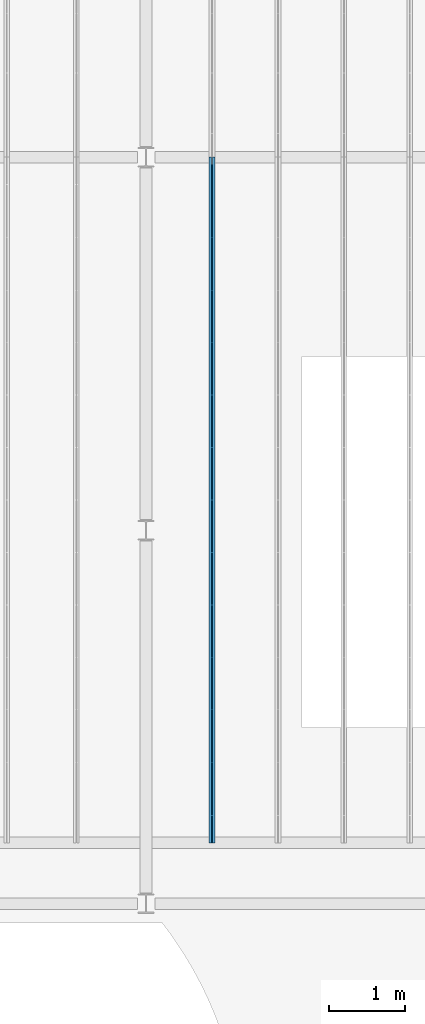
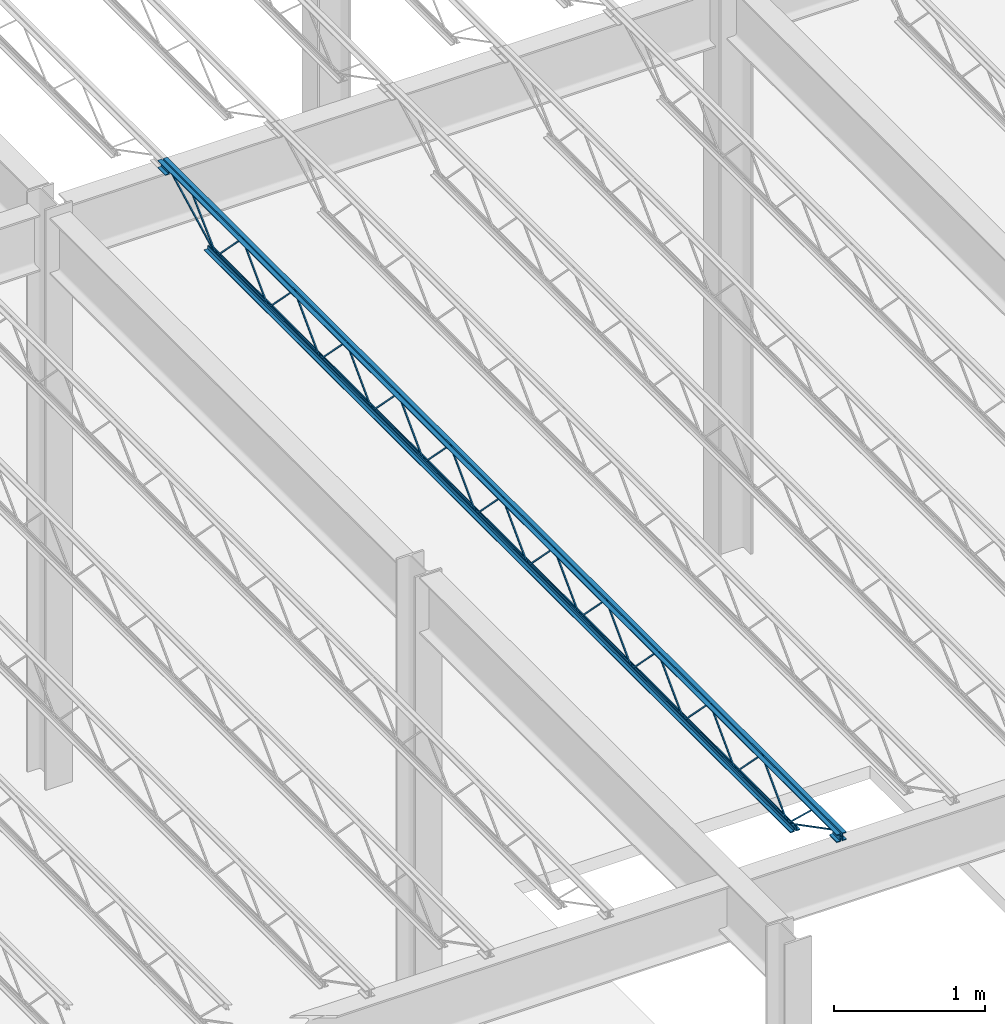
# One storey, part 52 of 119: 1 beam.
"""IFC2X3 building model written with IfcOpenShell, lengths in metres."""

import ifcopenshell
import ifcopenshell.guid

model = None  # the IFC model being written
_history = None  # IfcOwnerHistory: only IFC2X3 demands one
_inside = {}  # id of a spatial element -> (the spatial element, [elements in it])
_under = {}  # id of a project, library or spatial element -> (it, [spatial elements below it])
_declared = {}  # id of a project -> (the project, [libraries it declares])
_typed = {}  # id of a type object -> (the type object, [elements of that type])
_made_of = {}  # id of a material, layer set ... -> (it, [elements and type objects made of it])


def new_model(schema):
    """Start an empty IFC model of exactly this schema.

    Asked for "IFC4X3", IfcOpenShell would pick the latest addendum, in which some entities
    have other attributes; the version numbers below select the first issue.
    IFC2X3 requires an IfcOwnerHistory on every rooted entity: one is made here for all.
    """
    global model, _history
    if schema == "IFC4X3":
        model = ifcopenshell.file(schema_version=(4, 3, 0, 0))
    else:
        model = ifcopenshell.file(schema=schema)
    _inside.clear()
    _under.clear()
    _declared.clear()
    _typed.clear()
    _made_of.clear()
    _history = None
    if model.schema == "IFC2X3":
        org = make("IfcOrganization", Name="unknown")
        user = make(
            "IfcPersonAndOrganization",
            ThePerson=make("IfcPerson", FamilyName="unknown"),
            TheOrganization=org,
        )
        app = make(
            "IfcApplication",
            ApplicationDeveloper=org,
            Version="unknown",
            ApplicationFullName="unknown",
            ApplicationIdentifier="unknown",
        )
        _history = make(
            "IfcOwnerHistory",
            OwningUser=user,
            OwningApplication=app,
            ChangeAction="ADDED",
            CreationDate=0,
        )
    return model


def make(cls, **values):
    """One entity of the class cls with the attributes given. An attribute that is None is left unset."""
    return model.create_entity(
        cls, **{name: value for name, value in values.items() if value is not None}
    )


def entity(cls, *values):
    """Any entity or typed value of the class cls, its attributes in the order of the schema. None: left unset."""
    e = model.create_entity(cls)
    for i, value in enumerate(values):
        if value is not None:
            e[i] = value
    return e


def rooted(cls, **values):
    """An entity with a GlobalId (a new one), such as an element, a storey or a relation."""
    return make(cls, GlobalId=ifcopenshell.guid.new(), OwnerHistory=_history, **values)


def si_unit(unit_type, name, prefix=None):
    """IfcSIUnit, for example si_unit("LENGTHUNIT", "METRE", prefix="MILLI")."""
    return make("IfcSIUnit", UnitType=unit_type, Prefix=prefix, Name=name)


def converted_unit(unit_type, name, factor, base, dimensions=None, offset=None):
    """IfcConversionBasedUnit, such as the inch: factor (a typed value) times the base unit."""
    return make(
        "IfcConversionBasedUnit"
        if offset is None
        else "IfcConversionBasedUnitWithOffset",
        ConversionOffset=offset,
        Dimensions=None
        if dimensions is None
        else entity("IfcDimensionalExponents", *dimensions),
        UnitType=unit_type,
        Name=name,
        ConversionFactor=make(
            "IfcMeasureWithUnit", ValueComponent=factor, UnitComponent=base
        ),
    )


def assignment(units):
    """IfcUnitAssignment: the units of a project."""
    return None if units is None else make("IfcUnitAssignment", Units=units)


def point(xyz):
    """IfcCartesianPoint."""
    return None if xyz is None else make("IfcCartesianPoint", Coordinates=xyz)


def direction(xyz):
    """IfcDirection."""
    return None if xyz is None else make("IfcDirection", DirectionRatios=xyz)


def frame(location, z_axis=None, x_axis=None):
    """IfcAxis2Placement3D, a coordinate frame: its origin and axes. An axis left out is left unset."""
    return make(
        "IfcAxis2Placement3D",
        Location=point(location),
        Axis=direction(z_axis),
        RefDirection=direction(x_axis),
    )


def origin():
    """The frame at (0, 0, 0) with its axes left unset."""
    return frame((0.0, 0.0, 0.0))


def place(relative_to, where):
    """IfcLocalPlacement: puts the frame where relative to a parent placement (None: the world)."""
    return make(
        "IfcLocalPlacement", PlacementRelTo=relative_to, RelativePlacement=where
    )


def context(
    kind, dimensions, precision=None, world=None, true_north=None, identifier=None
):
    """IfcGeometricRepresentationContext, for example the 3D "Model" context."""
    return make(
        "IfcGeometricRepresentationContext",
        ContextIdentifier=identifier,
        ContextType=kind,
        CoordinateSpaceDimension=dimensions,
        Precision=precision,
        WorldCoordinateSystem=world,
        TrueNorth=true_north,
    )


def project(units=None, contexts=None):
    """IfcProject with its units and contexts."""
    return rooted(
        "IfcProject",
        Name="project",
        RepresentationContexts=contexts,
        UnitsInContext=assignment(units),
    )


def spatial(cls, under=None, at=None, **own):
    """A site, building, storey or space (cls), placed at a placement, below another one or the project."""
    s = rooted(cls, ObjectPlacement=at, **own)
    if under is not None:
        _under.setdefault(under.id(), (under, []))[1].append(s)
    return s


def faces_of(points, faces, orient=None, outer=None):
    """IfcFace entities. A face is a list of loops; a loop is a list of indices into points, from 0.

    orient and outer hold one flag for each loop. By default every Orientation is true, the
    first loop of a face is its IfcFaceOuterBound and the others are IfcFaceBound.
    """
    made = []
    for i, loops in enumerate(faces):
        bounds = []
        for j, loop in enumerate(loops):
            is_outer = j == 0 if outer is None else outer[i][j]
            bounds.append(
                make(
                    "IfcFaceOuterBound" if is_outer else "IfcFaceBound",
                    Bound=make("IfcPolyLoop", Polygon=[points[k] for k in loop]),
                    Orientation=True if orient is None else orient[i][j],
                )
            )
        made.append(make("IfcFace", Bounds=bounds))
    return made


def face_set(faces, orient=None, outer=None):
    """The faces of one IfcConnectedFaceSet. surface_model builds it on its shared points."""
    return ("IfcConnectedFaceSet", faces, orient, outer)


def surface_model(cls, points, shells):
    """IfcFaceBasedSurfaceModel or IfcShellBasedSurfaceModel (cls): surfaces that need not close."""
    shared = [point(p) for p in points]
    made = [make(c, CfsFaces=faces_of(shared, fs, o, b)) for c, fs, o, b in shells]
    if cls == "IfcFaceBasedSurfaceModel":
        return make(cls, FbsmFaces=made)
    return make(cls, SbsmBoundary=made)


def shape(context_of_items, identifier, shape_type, items):
    """IfcShapeRepresentation: the items that make up one representation, for example the "Body"."""
    return make(
        "IfcShapeRepresentation",
        ContextOfItems=context_of_items,
        RepresentationIdentifier=identifier,
        RepresentationType=shape_type,
        Items=items,
    )


def made_of(thing, what):
    """Note that an element or type object is made of a material, layer set ...; save() writes the relation."""
    if what is not None:
        _made_of.setdefault(what.id(), (what, []))[1].append(thing)
    return thing


def element(
    cls,
    number,
    at=None,
    inside=None,
    cuts=None,
    type_object=None,
    material=None,
    context=None,
    identifier="Body",
    shape_type=None,
    held_by="IfcProductDefinitionShape",
    body=None,
    shapes=None,
    **own,
):
    """One element of the class cls, such as IfcWall. Its Tag is "e" and its number.

    at: its placement. inside: the storey or other place that contains it. cuts: it is an
    opening in that element (IfcRelVoidsElement). A single representation is given by context,
    identifier, shape_type and body (its items); several are given by shapes. held_by: the class
    of the entity that holds the representations. save() writes the other relations.
    """
    e = rooted(cls, Tag="e%d" % number, ObjectPlacement=at, **own)
    if body is not None:
        shapes = [shape(context, identifier, shape_type, body)]
    if shapes is not None:
        e.Representation = make(held_by, Representations=shapes)
    if inside is not None:
        _inside.setdefault(inside.id(), (inside, []))[1].append(e)
    if cuts is not None:
        rooted(
            "IfcRelVoidsElement", RelatingBuildingElement=cuts, RelatedOpeningElement=e
        )
    if type_object is not None:
        _typed.setdefault(type_object.id(), (type_object, []))[1].append(e)
    return made_of(e, material)


def aggregate(whole, parts):
    """IfcRelAggregates: a whole, such as a stair, and the parts it consists of."""
    return rooted("IfcRelAggregates", RelatingObject=whole, RelatedObjects=parts)


def save(model, path):
    """Write the relations noted so far, then the file.

    IfcRelAggregates (storeys below a building ...), IfcRelContainedInSpatialStructure (elements
    in a storey), IfcRelDefinesByType, IfcRelAssociatesMaterial and IfcRelDeclares: one each for
    every whole, place, type object, material and project.
    """
    for whole, parts in _under.values():
        aggregate(whole, parts)
    for where, things in _inside.values():
        rooted(
            "IfcRelContainedInSpatialStructure",
            RelatedElements=things,
            RelatingStructure=where,
        )
    for kind, things in _typed.values():
        rooted("IfcRelDefinesByType", RelatedObjects=things, RelatingType=kind)
    for what, things in _made_of.values():
        rooted("IfcRelAssociatesMaterial", RelatedObjects=things, RelatingMaterial=what)
    for by, libraries in _declared.values():
        rooted("IfcRelDeclares", RelatingContext=by, RelatedDefinitions=libraries)
    model.write(path)


model = new_model("IFC2X3")

# Units and contexts
model_context = context("Model", 3, precision=1e-09, world=origin())
plan_context = context("Plan", 3, precision=1e-09, world=origin())
ifc_project = project(units=[si_unit("LENGTHUNIT", "METRE"), si_unit("AREAUNIT", "SQUARE_METRE"), si_unit("VOLUMEUNIT", "CUBIC_METRE"), converted_unit("PLANEANGLEUNIT", "DEGREE", entity("IfcRatioMeasure", 0.01745329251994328), si_unit("PLANEANGLEUNIT", "RADIAN"), dimensions=[0, 0, 0, 0, 0, 0, 0]), si_unit("TIMEUNIT", "SECOND")], contexts=[model_context, plan_context])

# Site, building, storey
site_placement = place(None, origin())
site = spatial("IfcSite", under=ifc_project, at=site_placement, Name="Default", CompositionType="ELEMENT")
building_placement = place(site_placement, origin())
building = spatial("IfcBuilding", under=site, at=building_placement, CompositionType="ELEMENT")
storey_placement = place(building_placement, frame((0.0, 0.0, 4.570000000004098)))
storey = spatial("IfcBuildingStorey", under=building, at=storey_placement, Name="Second Floor", CompositionType="ELEMENT", Elevation=4.570000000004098)

# Beam
beam_placement = place(storey_placement, frame((-19.23341249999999, 35.80499999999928, 4.323999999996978)))
element("IfcBeam", 1, at=beam_placement, inside=storey, Name="M_K-Series Bar Joist-Rod Web:14K1:14K1", ObjectType="M_K-Series Bar Joist-Rod Web:14K1", context=model_context, shape_type="SurfaceModel", body=[
    surface_model("IfcFaceBasedSurfaceModel", [(0.04150000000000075, 6.890090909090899, 0.01110000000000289), (0.03200000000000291, 6.890090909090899, 0.01110000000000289), (0.03200000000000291, 6.890090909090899, 0.001600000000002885), (0.04150000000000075, 6.890090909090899, 0.001600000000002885), (0.03200000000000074, 6.891272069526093, 0.01110000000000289), (0.04150000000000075, 6.891272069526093, 0.01110000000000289), (0.03200000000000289, 6.8952597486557, 0.001600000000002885), (0.03200000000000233, 7.232137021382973, 0.3449000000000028), (0.03200000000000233, 7.234499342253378, 0.3449000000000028), (0.03200000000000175, 7.571376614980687, 0.001600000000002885), (0.03200000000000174, 7.576545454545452, 0.001600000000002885), (0.03200000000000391, 7.576545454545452, 0.01110000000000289), (0.03200000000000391, 7.575364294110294, 0.01110000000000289), (0.03200000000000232, 7.238487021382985, 0.3544000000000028), (0.03200000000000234, 7.228149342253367, 0.3544000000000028), (0.0415000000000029, 6.8952597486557, 0.001600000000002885), (0.04150000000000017, 7.232137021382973, 0.3449000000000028), (0.04150000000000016, 7.234499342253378, 0.3449000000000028), (0.04149999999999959, 7.571376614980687, 0.001600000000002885), (0.04149999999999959, 7.576545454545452, 0.001600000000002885), (0.04149999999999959, 7.576545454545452, 0.01110000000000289), (0.04149999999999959, 7.575364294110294, 0.01110000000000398), (0.04150000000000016, 7.238487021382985, 0.3544000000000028), (0.04150000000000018, 7.228149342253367, 0.3544000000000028), (0.04149999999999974, 6.203636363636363, 0.01110000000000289), (0.0320000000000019, 6.203636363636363, 0.01110000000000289), (0.0320000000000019, 6.203636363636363, 0.001600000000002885), (0.04149999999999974, 6.203636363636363, 0.001600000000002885), (0.03199999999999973, 6.204817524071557, 0.01110000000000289), (0.04149999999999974, 6.204817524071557, 0.01110000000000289), (0.0320000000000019, 6.208805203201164, 0.001600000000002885), (0.03200000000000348, 6.545682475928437, 0.3449000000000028), (0.03200000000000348, 6.548044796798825, 0.3449000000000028), (0.03200000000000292, 6.884922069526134, 0.001600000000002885), (0.03200000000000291, 6.88890974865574, 0.01110000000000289), (0.03200000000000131, 6.552032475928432, 0.3544000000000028), (0.03200000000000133, 6.541694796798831, 0.3544000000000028), (0.0415000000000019, 6.208805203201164, 0.001600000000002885), (0.04149999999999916, 6.545682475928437, 0.3449000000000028), (0.04149999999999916, 6.548044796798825, 0.3449000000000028), (0.04149999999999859, 6.884922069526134, 0.001600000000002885), (0.04149999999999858, 6.890090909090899, 0.001600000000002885), (0.04150000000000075, 6.88890974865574, 0.01110000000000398), (0.04150000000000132, 6.552032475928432, 0.3544000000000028), (0.04150000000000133, 6.541694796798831, 0.3544000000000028), (0.0415000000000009, 5.51718181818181, 0.01110000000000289), (0.03200000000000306, 5.51718181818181, 0.01110000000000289), (0.03200000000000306, 5.51718181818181, 0.001600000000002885), (0.0415000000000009, 5.51718181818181, 0.001600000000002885), (0.03200000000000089, 5.518362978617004, 0.01110000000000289), (0.0415000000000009, 5.518362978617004, 0.01110000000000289), (0.03200000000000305, 5.522350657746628, 0.001600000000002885), (0.03200000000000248, 5.859227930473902, 0.3449000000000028), (0.03200000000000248, 5.861590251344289, 0.3449000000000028), (0.03200000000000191, 6.198467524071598, 0.001600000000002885), (0.03200000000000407, 6.203636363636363, 0.01110000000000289), (0.03200000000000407, 6.202455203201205, 0.01110000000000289), (0.03200000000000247, 5.865577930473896, 0.3544000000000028), (0.03200000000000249, 5.855240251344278, 0.3544000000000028), (0.04150000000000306, 5.52235065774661, 0.001600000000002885), (0.04150000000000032, 5.859227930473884, 0.3449000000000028), (0.04150000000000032, 5.861590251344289, 0.3449000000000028), (0.04149999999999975, 6.198467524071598, 0.001600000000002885), (0.04149999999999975, 6.202455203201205, 0.01110000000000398), (0.04150000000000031, 5.865577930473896, 0.3544000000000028), (0.04150000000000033, 5.855240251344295, 0.3544000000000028), (0.04149999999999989, 4.830727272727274, 0.01110000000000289), (0.03200000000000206, 4.830727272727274, 0.01110000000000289), (0.03200000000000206, 4.830727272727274, 0.001600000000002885), (0.04149999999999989, 4.830727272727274, 0.001600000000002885), (0.03199999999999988, 4.831908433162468, 0.01110000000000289), (0.04149999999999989, 4.831908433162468, 0.01110000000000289), (0.03200000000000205, 4.835896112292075, 0.001600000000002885), (0.03200000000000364, 5.172773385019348, 0.3449000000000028), (0.03200000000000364, 5.175135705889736, 0.3449000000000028), (0.03200000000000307, 5.512012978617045, 0.001600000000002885), (0.03200000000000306, 5.517181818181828, 0.001600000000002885), (0.03200000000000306, 5.516000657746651, 0.01110000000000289), (0.03200000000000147, 5.179123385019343, 0.3544000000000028), (0.03200000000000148, 5.168785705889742, 0.3544000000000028), (0.04150000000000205, 4.835896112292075, 0.001600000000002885), (0.04149999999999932, 5.172773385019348, 0.3449000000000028), (0.04149999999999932, 5.175135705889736, 0.3449000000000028), (0.04149999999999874, 5.512012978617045, 0.001600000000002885), (0.04149999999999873, 5.51718181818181, 0.001600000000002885), (0.0415000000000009, 5.517181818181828, 0.01110000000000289), (0.0415000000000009, 5.516000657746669, 0.01110000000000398), (0.04150000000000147, 5.179123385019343, 0.3544000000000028), (0.04150000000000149, 5.168785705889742, 0.3544000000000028), (0.04150000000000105, 4.144272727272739, 0.01110000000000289), (0.03200000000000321, 4.144272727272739, 0.01110000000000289), (0.03200000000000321, 4.144272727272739, 0.001600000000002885), (0.04150000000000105, 4.144272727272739, 0.001600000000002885), (0.03200000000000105, 4.145453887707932, 0.01110000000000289), (0.04150000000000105, 4.145453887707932, 0.01110000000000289), (0.03200000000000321, 4.149441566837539, 0.001600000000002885), (0.03200000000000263, 4.486318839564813, 0.3449000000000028), (0.03200000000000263, 4.4886811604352, 0.3449000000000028), (0.03200000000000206, 4.825558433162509, 0.001600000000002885), (0.03200000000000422, 4.830727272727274, 0.01110000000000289), (0.03200000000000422, 4.829546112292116, 0.01110000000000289), (0.03200000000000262, 4.492668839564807, 0.3544000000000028), (0.03200000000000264, 4.482331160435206, 0.3544000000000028), (0.04150000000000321, 4.149441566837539, 0.001600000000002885), (0.04150000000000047, 4.486318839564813, 0.3449000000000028), (0.04150000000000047, 4.4886811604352, 0.3449000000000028), (0.0414999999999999, 4.825558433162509, 0.001600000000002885), (0.0414999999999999, 4.829546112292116, 0.01110000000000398), (0.04150000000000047, 4.492668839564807, 0.3544000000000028), (0.04150000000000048, 4.482331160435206, 0.3544000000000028), (0.04150000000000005, 3.457818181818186, 0.01110000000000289), (0.03200000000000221, 3.457818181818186, 0.01110000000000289), (0.03200000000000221, 3.457818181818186, 0.001600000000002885), (0.04150000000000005, 3.457818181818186, 0.001600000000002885), (0.03200000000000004, 3.458999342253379, 0.01110000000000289), (0.04150000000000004, 3.458999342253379, 0.01110000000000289), (0.03200000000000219, 3.462987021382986, 0.001600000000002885), (0.03200000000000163, 3.79986429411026, 0.3449000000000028), (0.03200000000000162, 3.802226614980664, 0.3449000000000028), (0.03200000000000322, 4.139103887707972, 0.001600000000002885), (0.03200000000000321, 4.14309156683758, 0.01110000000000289), (0.03200000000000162, 3.806214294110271, 0.3544000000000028), (0.03200000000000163, 3.795876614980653, 0.3544000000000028), (0.04150000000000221, 3.462987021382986, 0.001600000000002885), (0.04149999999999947, 3.79986429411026, 0.3449000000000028), (0.04149999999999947, 3.802226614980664, 0.3449000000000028), (0.0414999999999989, 4.139103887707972, 0.001600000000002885), (0.04149999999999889, 4.144272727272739, 0.001600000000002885), (0.04150000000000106, 4.14309156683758, 0.01110000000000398), (0.04149999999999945, 3.806214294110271, 0.3544000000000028), (0.04149999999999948, 3.795876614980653, 0.3544000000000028), (0.04150000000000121, 2.771363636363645, 0.01110000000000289), (0.03200000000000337, 2.771363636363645, 0.01110000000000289), (0.03200000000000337, 2.771363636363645, 0.001600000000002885), (0.04150000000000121, 2.771363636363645, 0.001600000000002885), (0.0320000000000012, 2.772544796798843, 0.01110000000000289), (0.0415000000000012, 2.772544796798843, 0.01110000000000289), (0.03200000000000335, 2.77653247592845, 0.001600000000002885), (0.03200000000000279, 3.113409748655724, 0.3449000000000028), (0.03200000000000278, 3.115772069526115, 0.3449000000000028), (0.03200000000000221, 3.45264934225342, 0.001600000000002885), (0.03200000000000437, 3.457818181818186, 0.01110000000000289), (0.03200000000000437, 3.456637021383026, 0.01110000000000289), (0.03200000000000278, 3.119759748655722, 0.3544000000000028), (0.03200000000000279, 3.109422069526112, 0.3544000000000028), (0.04150000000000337, 2.77653247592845, 0.001600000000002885), (0.04150000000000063, 3.113409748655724, 0.3449000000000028), (0.04150000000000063, 3.115772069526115, 0.3449000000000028), (0.04150000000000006, 3.45264934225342, 0.001600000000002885), (0.04150000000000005, 3.456637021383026, 0.01110000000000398), (0.04150000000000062, 3.119759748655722, 0.3544000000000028), (0.04150000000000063, 3.109422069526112, 0.3544000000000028), (0.0415000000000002, 2.0849090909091, 0.01110000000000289), (0.03200000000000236, 2.0849090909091, 0.01110000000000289), (0.03200000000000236, 2.0849090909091, 0.001600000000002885), (0.0415000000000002, 2.0849090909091, 0.001600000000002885), (0.0320000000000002, 2.086090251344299, 0.01110000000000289), (0.0415000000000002, 2.086090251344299, 0.01110000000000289), (0.03200000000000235, 2.090077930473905, 0.001600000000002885), (0.03200000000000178, 2.426955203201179, 0.3449000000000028), (0.03200000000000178, 2.429317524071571, 0.3449000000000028), (0.03200000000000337, 2.766194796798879, 0.001600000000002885), (0.03200000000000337, 2.770182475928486, 0.01110000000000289), (0.03200000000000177, 2.433305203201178, 0.3544000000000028), (0.03200000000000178, 2.422967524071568, 0.3544000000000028), (0.04150000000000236, 2.090077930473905, 0.001600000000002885), (0.04149999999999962, 2.426955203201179, 0.3449000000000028), (0.04149999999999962, 2.429317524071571, 0.3449000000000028), (0.04149999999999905, 2.766194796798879, 0.001600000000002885), (0.04149999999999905, 2.771363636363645, 0.001600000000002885), (0.04150000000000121, 2.770182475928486, 0.01110000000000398), (0.04149999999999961, 2.433305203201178, 0.3544000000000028), (0.04149999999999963, 2.422967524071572, 0.3544000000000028), (0.04150000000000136, 1.39845454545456, 0.01110000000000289), (0.03200000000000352, 1.39845454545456, 0.01110000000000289), (0.03200000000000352, 1.39845454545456, 0.001600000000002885), (0.04150000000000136, 1.39845454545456, 0.001600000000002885), (0.03200000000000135, 1.399635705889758, 0.01110000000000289), (0.04150000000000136, 1.399635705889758, 0.01110000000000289), (0.03200000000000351, 1.403623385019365, 0.001600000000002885), (0.03200000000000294, 1.740500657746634, 0.3449000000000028), (0.03200000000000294, 1.742862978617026, 0.3449000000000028), (0.03200000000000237, 2.079740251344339, 0.001600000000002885), (0.03200000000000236, 2.084909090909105, 0.001600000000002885), (0.03200000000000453, 2.084909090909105, 0.01110000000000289), (0.03200000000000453, 2.083727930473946, 0.01110000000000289), (0.03200000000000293, 1.746850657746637, 0.3544000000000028), (0.03200000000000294, 1.736512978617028, 0.3544000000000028), (0.04150000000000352, 1.403623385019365, 0.001600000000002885), (0.04150000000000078, 1.740500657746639, 0.3449000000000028), (0.04150000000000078, 1.742862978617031, 0.3449000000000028), (0.04150000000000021, 2.079740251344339, 0.001600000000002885), (0.0415000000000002, 2.084909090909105, 0.001600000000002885), (0.0415000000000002, 2.084909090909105, 0.01110000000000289), (0.0415000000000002, 2.083727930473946, 0.01110000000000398), (0.04150000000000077, 1.746850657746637, 0.3544000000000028), (0.04150000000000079, 1.736512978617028, 0.3544000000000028), (0.04150000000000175, 7.576545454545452, 0.01109999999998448), (0.03200000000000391, 7.576545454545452, 0.01109999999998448), (0.03200000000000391, 7.576545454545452, 0.001599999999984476), (0.04150000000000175, 7.576545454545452, 0.001599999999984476), (0.03200000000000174, 7.577726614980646, 0.01109999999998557), (0.04150000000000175, 7.577726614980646, 0.01109999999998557), (0.03200000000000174, 7.581714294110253, 0.001599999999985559), (0.03200000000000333, 7.918591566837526, 0.3448999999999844), (0.03200000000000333, 7.920953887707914, 0.3448999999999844), (0.03200000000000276, 8.257831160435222, 0.001599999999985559), (0.03200000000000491, 8.26299999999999, 0.001599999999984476), (0.03200000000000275, 8.26299999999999, 0.01109999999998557), (0.03200000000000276, 8.26181883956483, 0.01109999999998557), (0.03200000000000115, 7.924941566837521, 0.3543999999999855), (0.03200000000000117, 7.91460388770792, 0.3543999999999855), (0.04150000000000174, 7.581714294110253, 0.001599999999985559), (0.04150000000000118, 7.918591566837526, 0.3448999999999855), (0.04150000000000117, 7.920953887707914, 0.3448999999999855), (0.0415000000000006, 8.257831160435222, 0.001599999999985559), (0.04150000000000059, 8.26299999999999, 0.001599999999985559), (0.04150000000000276, 8.26299999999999, 0.01109999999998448), (0.04150000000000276, 8.26181883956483, 0.01109999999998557), (0.04150000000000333, 7.924941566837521, 0.3543999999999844), (0.04150000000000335, 7.91460388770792, 0.3543999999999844), (0.04150000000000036, 0.7120000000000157, 0.01110000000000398), (0.03200000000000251, 0.7120000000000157, 0.01110000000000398), (0.03200000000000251, 0.7120000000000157, 0.001600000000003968), (0.04150000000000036, 0.7120000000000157, 0.001600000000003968), (0.03200000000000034, 0.7131811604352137, 0.01110000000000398), (0.04150000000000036, 0.7131811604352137, 0.01110000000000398), (0.03200000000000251, 0.7171688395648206, 0.001600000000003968), (0.03200000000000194, 1.05404611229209, 0.3449000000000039), (0.03200000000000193, 1.056408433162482, 0.3449000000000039), (0.03200000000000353, 1.393285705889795, 0.001600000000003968), (0.03200000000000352, 1.39845454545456, 0.001600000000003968), (0.03200000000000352, 1.39845454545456, 0.01110000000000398), (0.03200000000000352, 1.397273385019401, 0.01110000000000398), (0.03200000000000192, 1.060396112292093, 0.3544000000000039), (0.03200000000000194, 1.050058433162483, 0.3544000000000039), (0.04150000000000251, 0.7171688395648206, 0.001600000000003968), (0.04149999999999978, 1.054046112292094, 0.3449000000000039), (0.04149999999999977, 1.056408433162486, 0.3449000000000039), (0.0414999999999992, 1.393285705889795, 0.001600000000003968), (0.0414999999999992, 1.39845454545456, 0.001600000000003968), (0.04150000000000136, 1.39845454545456, 0.01110000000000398), (0.04150000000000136, 1.397273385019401, 0.01110000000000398), (0.04149999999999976, 1.060396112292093, 0.3544000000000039), (0.04149999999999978, 1.050058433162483, 0.3544000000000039), (0.03199999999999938, 8.975000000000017, 0.3559999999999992), (0.0, 8.975000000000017, 0.3559999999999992), (0.0, 8.975000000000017, 0.3494999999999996), (0.02549999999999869, 8.975000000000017, 0.3494999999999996), (0.02549999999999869, 8.975000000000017, 0.3239999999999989), (0.03199999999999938, 8.975000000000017, 0.3239999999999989), (0.04149999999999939, 8.975000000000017, 0.3559999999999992), (0.04149999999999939, 8.975000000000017, 0.3239999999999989), (0.04800000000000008, 8.975000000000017, 0.3239999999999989), (0.04800000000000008, 8.975000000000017, 0.3494999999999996), (0.07349999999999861, 8.975000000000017, 0.3494999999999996), (0.07349999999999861, 8.975000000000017, 0.3559999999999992), (0.03200000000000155, 0.0, 0.3559999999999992), (0.0, 0.0, 0.3559999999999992), (0.0, 0.0, 0.3494999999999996), (0.02550000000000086, 0.0, 0.3494999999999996), (0.02550000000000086, 0.0, 0.3239999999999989), (0.03200000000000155, 0.0, 0.3239999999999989), (0.04150000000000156, 0.0, 0.3559999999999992), (0.04150000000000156, 0.0, 0.3239999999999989), (0.04800000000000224, 0.0, 0.3239999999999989), (0.04800000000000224, 0.0, 0.3494999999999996), (0.07350000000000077, 0.0, 0.3494999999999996), (0.07350000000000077, 0.0, 0.3559999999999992), (0.04150000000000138, 0.0999999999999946, 0.2924999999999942), (0.0735000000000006, 0.0999999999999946, 0.2924999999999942), (0.0735000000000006, 0.0999999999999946, 0.2989999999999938), (0.04800000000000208, 0.0999999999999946, 0.2989999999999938), (0.04800000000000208, 0.0999999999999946, 0.3239999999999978), (0.04150000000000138, 0.0999999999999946, 0.3239999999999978), (0.0, 0.0999999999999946, 0.2924999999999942), (0.03200000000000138, 0.0999999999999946, 0.2924999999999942), (0.03200000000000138, 0.0999999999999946, 0.3239999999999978), (0.02550000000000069, 0.0999999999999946, 0.3239999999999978), (0.02550000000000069, 0.0999999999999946, 0.2989999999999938), (0.0, 0.0999999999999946, 0.2989999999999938), (0.04150000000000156, 0.0, 0.2924999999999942), (0.07350000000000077, 0.0, 0.2924999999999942), (0.07350000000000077, 0.0, 0.2989999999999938), (0.04800000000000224, 0.0, 0.2989999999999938), (0.04800000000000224, 0.0, 0.3239999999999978), (0.04150000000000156, 0.0, 0.3239999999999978), (0.0, 0.0, 0.2924999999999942), (0.03200000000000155, 0.0, 0.2924999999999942), (0.03200000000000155, 0.0, 0.3239999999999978), (0.02550000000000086, 0.0, 0.3239999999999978), (0.02550000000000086, 0.0, 0.2989999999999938), (0.0, 0.0, 0.2989999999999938), (0.03199999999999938, 8.975000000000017, 0.2924999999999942), (0.03199999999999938, 8.975000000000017, 0.3239999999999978), (0.02550000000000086, 8.975000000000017, 0.3239999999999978), (0.02550000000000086, 8.975000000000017, 0.2989999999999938), (0.0, 8.975000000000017, 0.2989999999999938), (0.0, 8.975000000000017, 0.2924999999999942), (0.04149999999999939, 8.975000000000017, 0.2924999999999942), (0.07350000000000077, 8.975000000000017, 0.2924999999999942), (0.07350000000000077, 8.975000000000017, 0.2989999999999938), (0.04800000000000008, 8.975000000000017, 0.2989999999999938), (0.04800000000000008, 8.975000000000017, 0.3239999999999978), (0.04149999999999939, 8.975000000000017, 0.3239999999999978), (0.03199999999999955, 8.875000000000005, 0.2924999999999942), (0.03199999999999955, 8.875000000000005, 0.3239999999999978), (0.02550000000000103, 8.875000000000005, 0.3239999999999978), (0.02550000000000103, 8.875000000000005, 0.2989999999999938), (0.0, 8.875000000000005, 0.2989999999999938), (0.0, 8.875000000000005, 0.2924999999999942), (0.04149999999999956, 8.875000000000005, 0.2924999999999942), (0.07350000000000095, 8.875000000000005, 0.2924999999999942), (0.07350000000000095, 8.875000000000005, 0.2989999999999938), (0.04800000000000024, 8.875000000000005, 0.2989999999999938), (0.04800000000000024, 8.875000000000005, 0.3239999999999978), (0.04149999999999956, 8.875000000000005, 0.3239999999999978), (0.03200000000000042, 8.363000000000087, 0.0), (0.03200000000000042, 8.363000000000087, 0.03199999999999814), (0.02549999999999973, 8.363000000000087, 0.03199999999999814), (0.02549999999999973, 8.363000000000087, 0.006499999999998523), (0.0, 8.363000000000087, 0.006499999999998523), (0.0, 8.363000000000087, 0.0), (0.04150000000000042, 8.363000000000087, 0.0), (0.07349999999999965, 8.363000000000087, 0.0), (0.07349999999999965, 8.363000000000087, 0.006499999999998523), (0.04800000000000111, 8.363000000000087, 0.006499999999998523), (0.04800000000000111, 8.363000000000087, 0.03199999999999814), (0.04150000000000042, 8.363000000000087, 0.03199999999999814), (0.03200000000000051, 0.6120000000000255, 0.0), (0.03200000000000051, 0.6120000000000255, 0.03199999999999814), (0.02549999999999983, 0.6120000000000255, 0.03199999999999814), (0.02549999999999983, 0.6120000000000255, 0.006499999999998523), (0.0, 0.6120000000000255, 0.006499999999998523), (0.0, 0.6120000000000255, 0.0), (0.04150000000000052, 0.6120000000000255, 0.0), (0.07349999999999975, 0.6120000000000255, 0.0), (0.07349999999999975, 0.6120000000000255, 0.006499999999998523), (0.04800000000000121, 0.6120000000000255, 0.006499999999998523), (0.04800000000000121, 0.6120000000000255, 0.03199999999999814), (0.04150000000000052, 0.6120000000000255, 0.03199999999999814), (0.04150000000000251, 0.7141882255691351, 0.01056594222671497), (0.03200000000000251, 0.7141882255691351, 0.01056594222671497), (0.03200000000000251, 0.709811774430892, 0.002134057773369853), (0.04150000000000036, 0.709811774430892, 0.002134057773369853), (0.04150000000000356, 0.101159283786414, 0.3287499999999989), (0.04150000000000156, 0.0, 0.3287499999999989), (0.04150000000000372, 0.0, 0.3192499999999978), (0.04150000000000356, 0.09884071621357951, 0.3192499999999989), (0.03200000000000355, 0.09884071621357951, 0.3192499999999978), (0.03200000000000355, 0.101159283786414, 0.3287499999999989), (0.03200000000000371, 0.0, 0.3287499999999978), (0.03200000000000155, 0.0, 0.3192499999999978), (0.04150000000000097, 0.3488155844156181, 0.3417000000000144), (0.03200000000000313, 0.3488155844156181, 0.3417000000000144), (0.03200000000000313, 0.3488155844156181, 0.3322000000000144), (0.04150000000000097, 0.3488155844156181, 0.3322000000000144), (0.03200000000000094, 0.3634023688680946, 0.3417000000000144), (0.04150000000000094, 0.3634023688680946, 0.3417000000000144), (0.03200000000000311, 0.3596287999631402, 0.3322000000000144), (0.03200000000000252, 0.7087406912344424, 0.002894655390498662), (0.03200000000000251, 0.7152593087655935, 0.009805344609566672), (0.04150000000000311, 0.3596287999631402, 0.3322000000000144), (0.04150000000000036, 0.7087406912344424, 0.002894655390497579), (0.04150000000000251, 0.7152593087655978, 0.009805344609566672), (0.04149999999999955, 8.877188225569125, 0.3197840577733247), (0.04149999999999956, 8.872811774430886, 0.3282159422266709), (0.03200000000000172, 8.872811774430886, 0.3282159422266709), (0.03200000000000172, 8.877188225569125, 0.3197840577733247), (0.04150000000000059, 8.265188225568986, 0.002134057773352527), (0.0415000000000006, 8.260811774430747, 0.01056594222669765), (0.03200000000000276, 8.260811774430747, 0.01056594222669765), (0.03200000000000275, 8.265188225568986, 0.002134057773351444), (0.04150000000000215, 8.624030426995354, 0.346222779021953), (0.04149999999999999, 8.617452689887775, 0.3530772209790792), (0.03199999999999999, 8.617452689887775, 0.3530772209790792), (0.03200000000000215, 8.624030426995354, 0.346222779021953), (0.04150000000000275, 8.266288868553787, 0.002922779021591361), (0.0415000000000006, 8.259711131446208, 0.009777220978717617), (0.03200000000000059, 8.259711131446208, 0.009777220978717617), (0.03200000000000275, 8.266288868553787, 0.002922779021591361)], [face_set([[[0, 1, 2, 3]], [[1, 4, 5, 0]], [[2, 6, 7, 8, 9, 10, 11, 12, 13, 14, 4, 1]], [[3, 2, 6, 15]], [[0, 3, 15, 16, 17, 18, 19, 20, 21, 22, 23, 5]], [[4, 5, 23, 14]], [[15, 16, 7, 6]], [[14, 13, 22, 23]], [[16, 7, 8, 17]], [[13, 12, 21, 22]], [[17, 8, 9, 18]], [[20, 11, 10, 19]], [[12, 11, 20, 21]], [[18, 9, 10, 19]]]), face_set([[[24, 25, 26, 27]], [[25, 28, 29, 24]], [[26, 30, 31, 32, 33, 2, 1, 34, 35, 36, 28, 25]], [[27, 26, 30, 37]], [[24, 27, 37, 38, 39, 40, 41, 0, 42, 43, 44, 29]], [[28, 29, 44, 36]], [[37, 38, 31, 30]], [[36, 35, 43, 44]], [[38, 31, 32, 39]], [[35, 34, 42, 43]], [[39, 32, 33, 40]], [[0, 1, 2, 41]], [[34, 1, 0, 42]], [[40, 33, 2, 41]]]), face_set([[[45, 46, 47, 48]], [[46, 49, 50, 45]], [[47, 51, 52, 53, 54, 26, 55, 56, 57, 58, 49, 46]], [[48, 47, 51, 59]], [[45, 48, 59, 60, 61, 62, 27, 24, 63, 64, 65, 50]], [[49, 50, 65, 58]], [[59, 60, 52, 51]], [[58, 57, 64, 65]], [[60, 52, 53, 61]], [[57, 56, 63, 64]], [[61, 53, 54, 62]], [[24, 55, 26, 27]], [[56, 55, 24, 63]], [[62, 54, 26, 27]]]), face_set([[[66, 67, 68, 69]], [[67, 70, 71, 66]], [[68, 72, 73, 74, 75, 76, 46, 77, 78, 79, 70, 67]], [[69, 68, 72, 80]], [[66, 69, 80, 81, 82, 83, 84, 85, 86, 87, 88, 71]], [[70, 71, 88, 79]], [[80, 81, 73, 72]], [[79, 78, 87, 88]], [[81, 73, 74, 82]], [[78, 77, 86, 87]], [[82, 74, 75, 83]], [[85, 46, 76, 84]], [[77, 46, 85, 86]], [[83, 75, 76, 84]]]), face_set([[[89, 90, 91, 92]], [[90, 93, 94, 89]], [[91, 95, 96, 97, 98, 68, 99, 100, 101, 102, 93, 90]], [[92, 91, 95, 103]], [[89, 92, 103, 104, 105, 106, 69, 66, 107, 108, 109, 94]], [[93, 94, 109, 102]], [[103, 104, 96, 95]], [[102, 101, 108, 109]], [[104, 96, 97, 105]], [[101, 100, 107, 108]], [[105, 97, 98, 106]], [[66, 99, 68, 69]], [[100, 99, 66, 107]], [[106, 98, 68, 69]]]), face_set([[[110, 111, 112, 113]], [[111, 114, 115, 110]], [[112, 116, 117, 118, 119, 91, 90, 120, 121, 122, 114, 111]], [[113, 112, 116, 123]], [[110, 113, 123, 124, 125, 126, 127, 89, 128, 129, 130, 115]], [[114, 115, 130, 122]], [[123, 124, 117, 116]], [[122, 121, 129, 130]], [[124, 117, 118, 125]], [[121, 120, 128, 129]], [[125, 118, 119, 126]], [[89, 90, 91, 127]], [[120, 90, 89, 128]], [[126, 119, 91, 127]]]), face_set([[[131, 132, 133, 134]], [[132, 135, 136, 131]], [[133, 137, 138, 139, 140, 112, 141, 142, 143, 144, 135, 132]], [[134, 133, 137, 145]], [[131, 134, 145, 146, 147, 148, 113, 110, 149, 150, 151, 136]], [[135, 136, 151, 144]], [[145, 146, 138, 137]], [[144, 143, 150, 151]], [[146, 138, 139, 147]], [[143, 142, 149, 150]], [[147, 139, 140, 148]], [[110, 141, 112, 113]], [[142, 141, 110, 149]], [[148, 140, 112, 113]]]), face_set([[[152, 153, 154, 155]], [[153, 156, 157, 152]], [[154, 158, 159, 160, 161, 133, 132, 162, 163, 164, 156, 153]], [[155, 154, 158, 165]], [[152, 155, 165, 166, 167, 168, 169, 131, 170, 171, 172, 157]], [[156, 157, 172, 164]], [[165, 166, 159, 158]], [[164, 163, 171, 172]], [[166, 159, 160, 167]], [[163, 162, 170, 171]], [[167, 160, 161, 168]], [[131, 132, 133, 169]], [[162, 132, 131, 170]], [[168, 161, 133, 169]]]), face_set([[[173, 174, 175, 176]], [[174, 177, 178, 173]], [[175, 179, 180, 181, 182, 183, 184, 185, 186, 187, 177, 174]], [[176, 175, 179, 188]], [[173, 176, 188, 189, 190, 191, 192, 193, 194, 195, 196, 178]], [[177, 178, 196, 187]], [[188, 189, 180, 179]], [[187, 186, 195, 196]], [[189, 180, 181, 190]], [[186, 185, 194, 195]], [[190, 181, 182, 191]], [[193, 184, 183, 192]], [[185, 184, 193, 194]], [[191, 182, 183, 192]]]), face_set([[[197, 198, 199, 200]], [[198, 201, 202, 197]], [[199, 203, 204, 205, 206, 207, 208, 209, 210, 211, 201, 198]], [[200, 199, 203, 212]], [[197, 200, 212, 213, 214, 215, 216, 217, 218, 219, 220, 202]], [[201, 202, 220, 211]], [[212, 213, 204, 203]], [[211, 210, 219, 220]], [[213, 204, 205, 214]], [[210, 209, 218, 219]], [[214, 205, 206, 215]], [[217, 208, 207, 216]], [[209, 208, 217, 218]], [[215, 206, 207, 216]]]), face_set([[[221, 222, 223, 224]], [[222, 225, 226, 221]], [[223, 227, 228, 229, 230, 231, 232, 233, 234, 235, 225, 222]], [[224, 223, 227, 236]], [[221, 224, 236, 237, 238, 239, 240, 241, 242, 243, 244, 226]], [[225, 226, 244, 235]], [[236, 237, 228, 227]], [[235, 234, 243, 244]], [[237, 228, 229, 238]], [[234, 233, 242, 243]], [[238, 229, 230, 239]], [[241, 232, 231, 240]], [[233, 232, 241, 242]], [[239, 230, 231, 240]]]), face_set([[[245, 246, 247, 248, 249, 250]], [[251, 252, 253, 254, 255, 256]], [[257, 258, 259, 260, 261, 262]], [[263, 264, 265, 266, 267, 268]], [[250, 245, 257, 262]], [[249, 250, 262, 261]], [[248, 260, 261, 249]], [[247, 248, 260, 259]], [[246, 258, 259, 247]], [[245, 257, 258, 246]], [[256, 268, 263, 251]], [[255, 256, 268, 267]], [[254, 255, 267, 266]], [[253, 254, 266, 265]], [[252, 253, 265, 264]], [[251, 263, 264, 252]]]), face_set([[[269, 270, 271, 272, 273, 274]], [[275, 276, 277, 278, 279, 280]], [[281, 282, 283, 284, 285, 286]], [[287, 288, 289, 290, 291, 292]], [[274, 286, 281, 269]], [[273, 285, 286, 274]], [[272, 273, 285, 284]], [[271, 283, 284, 272]], [[270, 271, 283, 282]], [[269, 270, 282, 281]], [[280, 292, 287, 275]], [[279, 291, 292, 280]], [[278, 290, 291, 279]], [[277, 289, 290, 278]], [[276, 277, 289, 288]], [[275, 276, 288, 287]]]), face_set([[[293, 294, 295, 296, 297, 298]], [[299, 300, 301, 302, 303, 304]], [[305, 306, 307, 308, 309, 310]], [[311, 312, 313, 314, 315, 316]], [[298, 293, 305, 310]], [[297, 309, 310, 298]], [[296, 308, 309, 297]], [[295, 307, 308, 296]], [[294, 306, 307, 295]], [[293, 294, 306, 305]], [[304, 316, 311, 299]], [[303, 315, 316, 304]], [[302, 303, 315, 314]], [[301, 313, 314, 302]], [[300, 301, 313, 312]], [[299, 300, 312, 311]]]), face_set([[[317, 318, 319, 320, 321, 322]], [[323, 324, 325, 326, 327, 328]], [[329, 330, 331, 332, 333, 334]], [[335, 336, 337, 338, 339, 340]], [[322, 317, 329, 334]], [[321, 333, 334, 322]], [[320, 332, 333, 321]], [[319, 331, 332, 320]], [[318, 330, 331, 319]], [[317, 318, 330, 329]], [[328, 340, 335, 323]], [[327, 339, 340, 328]], [[326, 327, 339, 338]], [[325, 337, 338, 326]], [[324, 325, 337, 336]], [[323, 324, 336, 335]]]), face_set([[[341, 342, 343, 344]], [[344, 341, 345, 346, 347, 348]], [[343, 344, 348, 349]], [[342, 350, 351, 352, 349, 343]], [[341, 345, 350, 342]], [[346, 351, 352, 347]], [[349, 348, 347, 352]], [[345, 346, 351, 350]]]), face_set([[[353, 354, 355, 356]], [[354, 357, 358, 353]], [[355, 359, 360, 361, 357, 354]], [[356, 355, 359, 362]], [[353, 356, 362, 363, 364, 358]], [[364, 361, 360, 363]], [[357, 361, 364, 358]], [[362, 359, 360, 363]]]), face_set([[[365, 366, 367, 368]], [[369, 370, 371, 372]], [[368, 372, 369, 365]], [[367, 371, 372, 368]], [[366, 367, 371, 370]], [[365, 366, 370, 369]]]), face_set([[[373, 374, 375, 376]], [[377, 378, 379, 380]], [[376, 380, 377, 373]], [[375, 379, 380, 376]], [[374, 375, 379, 378]], [[373, 374, 378, 377]]])]),
])

save(model, "model.ifc")
